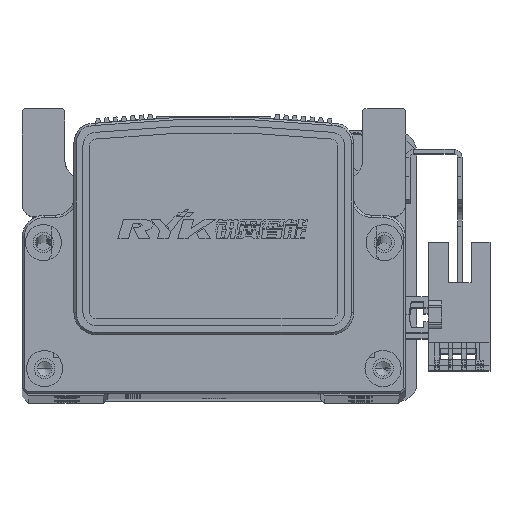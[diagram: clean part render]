
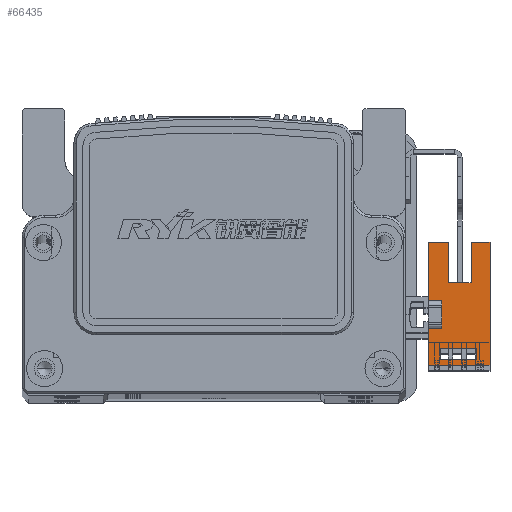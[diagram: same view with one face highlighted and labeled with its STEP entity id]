
A CAD part, top view. The second image highlights one B-rep face of the part: STEP entity #66435.
In plain terms, the highlighted planar face has unit normal (0, 0, 1) as drawn and (1, 0, 0) by its records, which use the part's own axes.
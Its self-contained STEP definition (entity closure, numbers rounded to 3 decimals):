
#748 = AXIS2_PLACEMENT_3D ( 'NONE', #24835, #24854, #24831 ) ;
#2398 = FACE_BOUND ( 'NONE', #47737, .T. ) ;
#2445 = FACE_OUTER_BOUND ( 'NONE', #47711, .T. ) ;
#9616 = ORIENTED_EDGE ( 'NONE', *, *, #28995, .F. ) ;
#9632 = ORIENTED_EDGE ( 'NONE', *, *, #29032, .F. ) ;
#14550 = VERTEX_POINT ( 'NONE', #66772 ) ;
#14601 = VERTEX_POINT ( 'NONE', #66806 ) ;
#14648 = VERTEX_POINT ( 'NONE', #66841 ) ;
#14654 = VERTEX_POINT ( 'NONE', #66819 ) ;
#14662 = VERTEX_POINT ( 'NONE', #66810 ) ;
#14690 = VERTEX_POINT ( 'NONE', #66863 ) ;
#14705 = VERTEX_POINT ( 'NONE', #66918 ) ;
#14712 = VERTEX_POINT ( 'NONE', #66920 ) ;
#14717 = VERTEX_POINT ( 'NONE', #66873 ) ;
#14723 = VERTEX_POINT ( 'NONE', #66865 ) ;
#14726 = VERTEX_POINT ( 'NONE', #66898 ) ;
#14740 = VERTEX_POINT ( 'NONE', #66878 ) ;
#14749 = VERTEX_POINT ( 'NONE', #66904 ) ;
#14755 = VERTEX_POINT ( 'NONE', #66907 ) ;
#14768 = VERTEX_POINT ( 'NONE', #66914 ) ;
#14807 = VERTEX_POINT ( 'NONE', #66938 ) ;
#24819 = PLANE ( 'NONE',  #748 ) ;
#24831 = DIRECTION ( 'NONE',  ( 0., 1., 0. ) ) ;
#24835 = CARTESIAN_POINT ( 'NONE',  ( 3.2, 16.1, -10.7 ) ) ;
#24854 = DIRECTION ( 'NONE',  ( 1., 0., 0. ) ) ;
#28874 = EDGE_CURVE ( 'NONE', #14755, #14601, #39523, .T. ) ;
#28888 = EDGE_CURVE ( 'NONE', #14712, #14662, #39569, .T. ) ;
#28906 = EDGE_CURVE ( 'NONE', #14807, #14690, #39571, .T. ) ;
#28920 = EDGE_CURVE ( 'NONE', #14601, #14654, #39585, .T. ) ;
#28926 = EDGE_CURVE ( 'NONE', #14662, #14550, #39612, .T. ) ;
#28939 = EDGE_CURVE ( 'NONE', #14648, #14717, #39613, .T. ) ;
#28950 = EDGE_CURVE ( 'NONE', #14550, #14723, #39652, .T. ) ;
#28956 = EDGE_CURVE ( 'NONE', #14768, #14705, #39655, .T. ) ;
#28995 = EDGE_CURVE ( 'NONE', #14705, #14740, #39667, .T. ) ;
#29030 = EDGE_CURVE ( 'NONE', #14690, #14654, #39712, .T. ) ;
#29032 = EDGE_CURVE ( 'NONE', #14740, #14726, #39699, .T. ) ;
#29054 = EDGE_CURVE ( 'NONE', #14726, #14768, #39722, .T. ) ;
#29065 = EDGE_CURVE ( 'NONE', #14749, #14755, #39716, .T. ) ;
#29091 = EDGE_CURVE ( 'NONE', #14723, #14807, #39793, .T. ) ;
#29119 = EDGE_CURVE ( 'NONE', #14717, #14749, #39790, .T. ) ;
#29135 = EDGE_CURVE ( 'NONE', #14712, #14648, #39786, .T. ) ;
#39523 = LINE ( 'NONE', #46034, #39530 ) ;
#39530 = VECTOR ( 'NONE', #46065, 1000. ) ;
#39569 = LINE ( 'NONE', #46049, #39577 ) ;
#39571 = LINE ( 'NONE', #46072, #39611 ) ;
#39577 = VECTOR ( 'NONE', #46054, 1000. ) ;
#39579 = VECTOR ( 'NONE', #46115, 1000. ) ;
#39585 = LINE ( 'NONE', #46104, #39579 ) ;
#39587 = VECTOR ( 'NONE', #46106, 1000. ) ;
#39611 = VECTOR ( 'NONE', #46080, 1000. ) ;
#39612 = LINE ( 'NONE', #46086, #39587 ) ;
#39613 = LINE ( 'NONE', #46099, #39616 ) ;
#39616 = VECTOR ( 'NONE', #46108, 1000. ) ;
#39629 = VECTOR ( 'NONE', #46157, 1000. ) ;
#39652 = LINE ( 'NONE', #46114, #39659 ) ;
#39655 = LINE ( 'NONE', #46137, #39629 ) ;
#39659 = VECTOR ( 'NONE', #46093, 1000. ) ;
#39667 = LINE ( 'NONE', #46201, #39668 ) ;
#39668 = VECTOR ( 'NONE', #46207, 1000. ) ;
#39699 = LINE ( 'NONE', #46218, #39738 ) ;
#39711 = VECTOR ( 'NONE', #46248, 1000. ) ;
#39712 = LINE ( 'NONE', #46226, #39711 ) ;
#39716 = LINE ( 'NONE', #46251, #39749 ) ;
#39722 = LINE ( 'NONE', #46227, #39743 ) ;
#39738 = VECTOR ( 'NONE', #46242, 1000. ) ;
#39743 = VECTOR ( 'NONE', #46214, 1000. ) ;
#39749 = VECTOR ( 'NONE', #46216, 1000. ) ;
#39765 = VECTOR ( 'NONE', #46317, 1000. ) ;
#39774 = VECTOR ( 'NONE', #46252, 1000. ) ;
#39784 = VECTOR ( 'NONE', #46327, 1000. ) ;
#39786 = LINE ( 'NONE', #46316, #39765 ) ;
#39790 = LINE ( 'NONE', #46313, #39784 ) ;
#39793 = LINE ( 'NONE', #46271, #39774 ) ;
#46034 = CARTESIAN_POINT ( 'NONE',  ( 3.2, 3.1, 3. ) ) ;
#46049 = CARTESIAN_POINT ( 'NONE',  ( 3.2, 16.1, -10.7 ) ) ;
#46054 = DIRECTION ( 'NONE',  ( 0., 1., 0. ) ) ;
#46065 = DIRECTION ( 'NONE',  ( 0., 0., 1. ) ) ;
#46072 = CARTESIAN_POINT ( 'NONE',  ( 3.2, 25.1, -1.5 ) ) ;
#46080 = DIRECTION ( 'NONE',  ( 0., 1., 0. ) ) ;
#46086 = CARTESIAN_POINT ( 'NONE',  ( 3.2, 16.1, -10.7 ) ) ;
#46093 = DIRECTION ( 'NONE',  ( 0., -1., 0. ) ) ;
#46099 = CARTESIAN_POINT ( 'NONE',  ( 3.2, 16.1, 3. ) ) ;
#46104 = CARTESIAN_POINT ( 'NONE',  ( 3.2, 16.1, 3. ) ) ;
#46106 = DIRECTION ( 'NONE',  ( 0., 0., 1. ) ) ;
#46108 = DIRECTION ( 'NONE',  ( 0., 1., 0. ) ) ;
#46114 = CARTESIAN_POINT ( 'NONE',  ( 3.2, 25.1, -6.5 ) ) ;
#46115 = DIRECTION ( 'NONE',  ( 0., 1., 0. ) ) ;
#46137 = CARTESIAN_POINT ( 'NONE',  ( 3.2, -9.83, -10.7 ) ) ;
#46157 = DIRECTION ( 'NONE',  ( 0., 0., -1. ) ) ;
#46201 = CARTESIAN_POINT ( 'NONE',  ( 3.2, 16.1, -7.7 ) ) ;
#46207 = DIRECTION ( 'NONE',  ( 0., 1., 0. ) ) ;
#46214 = DIRECTION ( 'NONE',  ( 0., -1., 0. ) ) ;
#46216 = DIRECTION ( 'NONE',  ( 0., 1., 0. ) ) ;
#46218 = CARTESIAN_POINT ( 'NONE',  ( 3.2, -7.33, -10.7 ) ) ;
#46226 = CARTESIAN_POINT ( 'NONE',  ( 3.2, 16.1, -10.7 ) ) ;
#46227 = CARTESIAN_POINT ( 'NONE',  ( 3.2, 16.1, 0.3 ) ) ;
#46242 = DIRECTION ( 'NONE',  ( 0., 0., 1. ) ) ;
#46248 = DIRECTION ( 'NONE',  ( 0., 0., 1. ) ) ;
#46251 = CARTESIAN_POINT ( 'NONE',  ( 3.2, 0., 0. ) ) ;
#46252 = DIRECTION ( 'NONE',  ( 0., 0., 1. ) ) ;
#46271 = CARTESIAN_POINT ( 'NONE',  ( 3.2, 7.1, -6.5 ) ) ;
#46313 = CARTESIAN_POINT ( 'NONE',  ( 3.2, -3.1, 3. ) ) ;
#46316 = CARTESIAN_POINT ( 'NONE',  ( 3.2, -11.1, 3. ) ) ;
#46317 = DIRECTION ( 'NONE',  ( 0., 0., 1. ) ) ;
#46327 = DIRECTION ( 'NONE',  ( 0., 0., -1. ) ) ;
#47711 = EDGE_LOOP ( 'NONE', ( #61762, #61766, #61818, #61768, #61739, #61771, #61810, #61775, #61786, #61731, #61830, #61862 ) ) ;
#47737 = EDGE_LOOP ( 'NONE', ( #61849, #9632, #9616, #61833 ) ) ;
#61731 = ORIENTED_EDGE ( 'NONE', *, *, #29135, .F. ) ;
#61739 = ORIENTED_EDGE ( 'NONE', *, *, #28920, .F. ) ;
#61762 = ORIENTED_EDGE ( 'NONE', *, *, #28950, .T. ) ;
#61766 = ORIENTED_EDGE ( 'NONE', *, *, #29091, .T. ) ;
#61768 = ORIENTED_EDGE ( 'NONE', *, *, #29030, .T. ) ;
#61771 = ORIENTED_EDGE ( 'NONE', *, *, #28874, .F. ) ;
#61775 = ORIENTED_EDGE ( 'NONE', *, *, #29119, .F. ) ;
#61786 = ORIENTED_EDGE ( 'NONE', *, *, #28939, .F. ) ;
#61810 = ORIENTED_EDGE ( 'NONE', *, *, #29065, .F. ) ;
#61818 = ORIENTED_EDGE ( 'NONE', *, *, #28906, .T. ) ;
#61830 = ORIENTED_EDGE ( 'NONE', *, *, #28888, .T. ) ;
#61833 = ORIENTED_EDGE ( 'NONE', *, *, #28956, .F. ) ;
#61849 = ORIENTED_EDGE ( 'NONE', *, *, #29054, .F. ) ;
#61862 = ORIENTED_EDGE ( 'NONE', *, *, #28926, .T. ) ;
#66435 = ADVANCED_FACE ( 'NONE', ( #2445, #2398 ), #24819, .T. ) ;
#66772 = CARTESIAN_POINT ( 'NONE',  ( 3.2, 16.1, -6.5 ) ) ;
#66806 = CARTESIAN_POINT ( 'NONE',  ( 3.2, 3.1, 3. ) ) ;
#66810 = CARTESIAN_POINT ( 'NONE',  ( 3.2, 16.1, -10.7 ) ) ;
#66819 = CARTESIAN_POINT ( 'NONE',  ( 3.2, 16.1, 3. ) ) ;
#66841 = CARTESIAN_POINT ( 'NONE',  ( 3.2, -11.1, 3. ) ) ;
#66863 = CARTESIAN_POINT ( 'NONE',  ( 3.2, 16.1, -1.5 ) ) ;
#66865 = CARTESIAN_POINT ( 'NONE',  ( 3.2, 7.1, -6.5 ) ) ;
#66873 = CARTESIAN_POINT ( 'NONE',  ( 3.2, -3.1, 3. ) ) ;
#66878 = CARTESIAN_POINT ( 'NONE',  ( 3.2, -7.33, -7.7 ) ) ;
#66898 = CARTESIAN_POINT ( 'NONE',  ( 3.2, -7.33, 0.3 ) ) ;
#66904 = CARTESIAN_POINT ( 'NONE',  ( 3.2, -3.1, 0. ) ) ;
#66907 = CARTESIAN_POINT ( 'NONE',  ( 3.2, 3.1, 0. ) ) ;
#66914 = CARTESIAN_POINT ( 'NONE',  ( 3.2, -9.83, 0.3 ) ) ;
#66918 = CARTESIAN_POINT ( 'NONE',  ( 3.2, -9.83, -7.7 ) ) ;
#66920 = CARTESIAN_POINT ( 'NONE',  ( 3.2, -11.1, -10.7 ) ) ;
#66938 = CARTESIAN_POINT ( 'NONE',  ( 3.2, 7.1, -1.5 ) ) ;
